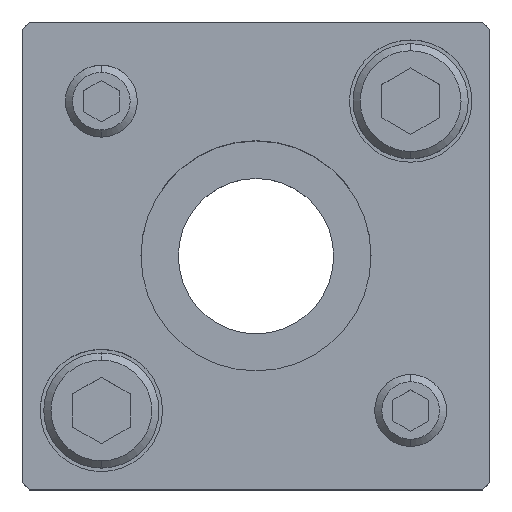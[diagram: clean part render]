
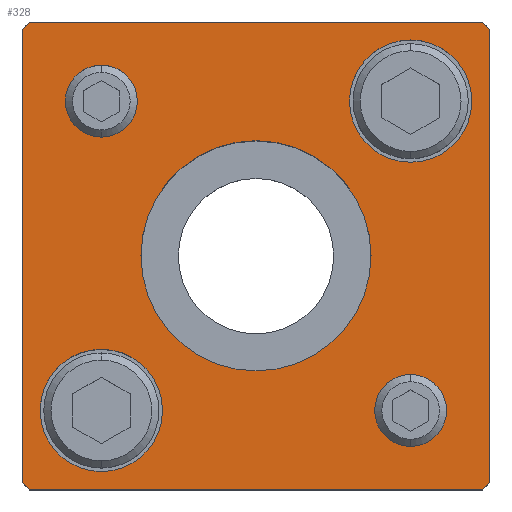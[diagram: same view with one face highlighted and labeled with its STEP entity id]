
A CAD part, top view. The second image highlights one B-rep face of the part: STEP entity #328.
In plain terms, the highlighted planar face has unit normal (0, 0, 1).
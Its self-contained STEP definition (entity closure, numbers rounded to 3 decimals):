
#119=PLANE('',#2702);
#192=FACE_BOUND('',#649,.T.);
#193=FACE_BOUND('',#650,.T.);
#194=FACE_BOUND('',#651,.T.);
#195=FACE_BOUND('',#652,.T.);
#196=FACE_BOUND('',#653,.T.);
#197=FACE_BOUND('',#654,.T.);
#328=ADVANCED_FACE('',(#192,#193,#194,#195,#196,#197),#119,.T.);
#649=EDGE_LOOP('',(#1071,#1072,#1073,#1074,#1075,#1076,#1077,#1078));
#650=EDGE_LOOP('',(#1079,#1080));
#651=EDGE_LOOP('',(#1081,#1082));
#652=EDGE_LOOP('',(#1083,#1084));
#653=EDGE_LOOP('',(#1085,#1086));
#654=EDGE_LOOP('',(#1087,#1088));
#833=CIRCLE('',#2678,5.);
#835=CIRCLE('',#2681,5.);
#837=CIRCLE('',#2684,5.);
#839=CIRCLE('',#2687,5.);
#845=CIRCLE('',#2696,8.5);
#846=CIRCLE('',#2697,8.5);
#847=CIRCLE('',#2698,8.5);
#848=CIRCLE('',#2699,8.5);
#849=CIRCLE('',#2700,16.);
#850=CIRCLE('',#2701,16.);
#1071=ORIENTED_EDGE('',*,*,#1923,.T.);
#1072=ORIENTED_EDGE('',*,*,#1924,.T.);
#1073=ORIENTED_EDGE('',*,*,#1925,.T.);
#1074=ORIENTED_EDGE('',*,*,#1926,.T.);
#1075=ORIENTED_EDGE('',*,*,#1927,.T.);
#1076=ORIENTED_EDGE('',*,*,#1928,.T.);
#1077=ORIENTED_EDGE('',*,*,#1929,.T.);
#1078=ORIENTED_EDGE('',*,*,#1930,.T.);
#1079=ORIENTED_EDGE('',*,*,#1931,.F.);
#1080=ORIENTED_EDGE('',*,*,#1932,.F.);
#1081=ORIENTED_EDGE('',*,*,#1933,.F.);
#1082=ORIENTED_EDGE('',*,*,#1934,.F.);
#1083=ORIENTED_EDGE('',*,*,#1915,.F.);
#1084=ORIENTED_EDGE('',*,*,#1911,.F.);
#1085=ORIENTED_EDGE('',*,*,#1909,.F.);
#1086=ORIENTED_EDGE('',*,*,#1905,.F.);
#1087=ORIENTED_EDGE('',*,*,#1935,.T.);
#1088=ORIENTED_EDGE('',*,*,#1936,.T.);
#1659=VERTEX_POINT('',#3859);
#1660=VERTEX_POINT('',#3860);
#1663=VERTEX_POINT('',#3871);
#1664=VERTEX_POINT('',#3872);
#1671=VERTEX_POINT('',#3895);
#1672=VERTEX_POINT('',#3896);
#1673=VERTEX_POINT('',#3898);
#1674=VERTEX_POINT('',#3900);
#1675=VERTEX_POINT('',#3902);
#1676=VERTEX_POINT('',#3904);
#1677=VERTEX_POINT('',#3906);
#1678=VERTEX_POINT('',#3908);
#1679=VERTEX_POINT('',#3911);
#1680=VERTEX_POINT('',#3912);
#1681=VERTEX_POINT('',#3915);
#1682=VERTEX_POINT('',#3916);
#1683=VERTEX_POINT('',#3919);
#1684=VERTEX_POINT('',#3920);
#1905=EDGE_CURVE('',#1659,#1660,#833,.T.);
#1909=EDGE_CURVE('',#1660,#1659,#835,.T.);
#1911=EDGE_CURVE('',#1663,#1664,#837,.T.);
#1915=EDGE_CURVE('',#1664,#1663,#839,.T.);
#1923=EDGE_CURVE('',#1671,#1672,#2217,.T.);
#1924=EDGE_CURVE('',#1672,#1673,#2218,.T.);
#1925=EDGE_CURVE('',#1673,#1674,#2219,.T.);
#1926=EDGE_CURVE('',#1674,#1675,#2220,.T.);
#1927=EDGE_CURVE('',#1675,#1676,#2221,.T.);
#1928=EDGE_CURVE('',#1676,#1677,#2222,.T.);
#1929=EDGE_CURVE('',#1677,#1678,#2223,.T.);
#1930=EDGE_CURVE('',#1678,#1671,#2224,.T.);
#1931=EDGE_CURVE('',#1679,#1680,#845,.T.);
#1932=EDGE_CURVE('',#1680,#1679,#846,.T.);
#1933=EDGE_CURVE('',#1681,#1682,#847,.T.);
#1934=EDGE_CURVE('',#1682,#1681,#848,.T.);
#1935=EDGE_CURVE('',#1683,#1684,#849,.T.);
#1936=EDGE_CURVE('',#1684,#1683,#850,.T.);
#2217=LINE('',#3894,#2429);
#2218=LINE('',#3897,#2430);
#2219=LINE('',#3899,#2431);
#2220=LINE('',#3901,#2432);
#2221=LINE('',#3903,#2433);
#2222=LINE('',#3905,#2434);
#2223=LINE('',#3907,#2435);
#2224=LINE('',#3909,#2436);
#2429=VECTOR('',#3097,1.);
#2430=VECTOR('',#3098,1.);
#2431=VECTOR('',#3099,1.);
#2432=VECTOR('',#3100,1.);
#2433=VECTOR('',#3101,1.);
#2434=VECTOR('',#3102,1.);
#2435=VECTOR('',#3103,1.);
#2436=VECTOR('',#3104,1.);
#2678=AXIS2_PLACEMENT_3D('',#3858,#3055,#3056);
#2681=AXIS2_PLACEMENT_3D('',#3867,#3063,#3064);
#2684=AXIS2_PLACEMENT_3D('',#3870,#3069,#3070);
#2687=AXIS2_PLACEMENT_3D('',#3879,#3077,#3078);
#2696=AXIS2_PLACEMENT_3D('',#3910,#3105,#3106);
#2697=AXIS2_PLACEMENT_3D('',#3913,#3107,#3108);
#2698=AXIS2_PLACEMENT_3D('',#3914,#3109,#3110);
#2699=AXIS2_PLACEMENT_3D('',#3917,#3111,#3112);
#2700=AXIS2_PLACEMENT_3D('',#3918,#3113,#3114);
#2701=AXIS2_PLACEMENT_3D('',#3921,#3115,#3116);
#2702=AXIS2_PLACEMENT_3D('',#3922,#3117,#3118);
#3055=DIRECTION('',(0.,0.,1.));
#3056=DIRECTION('',(1.,0.,0.));
#3063=DIRECTION('',(0.,0.,1.));
#3064=DIRECTION('',(-1.,0.,0.));
#3069=DIRECTION('',(0.,0.,1.));
#3070=DIRECTION('',(1.,0.,0.));
#3077=DIRECTION('',(0.,0.,1.));
#3078=DIRECTION('',(-1.,0.,0.));
#3097=DIRECTION('',(1.,0.,0.));
#3098=DIRECTION('',(0.707,0.707,0.));
#3099=DIRECTION('',(0.,1.,0.));
#3100=DIRECTION('',(-0.707,0.707,0.));
#3101=DIRECTION('',(-1.,0.,0.));
#3102=DIRECTION('',(-0.707,-0.707,0.));
#3103=DIRECTION('',(0.,-1.,0.));
#3104=DIRECTION('',(0.707,-0.707,0.));
#3105=DIRECTION('',(0.,0.,1.));
#3106=DIRECTION('',(1.,0.,0.));
#3107=DIRECTION('',(0.,0.,1.));
#3108=DIRECTION('',(-1.,0.,0.));
#3109=DIRECTION('',(0.,0.,1.));
#3110=DIRECTION('',(1.,0.,0.));
#3111=DIRECTION('',(0.,0.,1.));
#3112=DIRECTION('',(-1.,0.,0.));
#3113=DIRECTION('',(0.,0.,-1.));
#3114=DIRECTION('',(-1.,0.,0.));
#3115=DIRECTION('',(0.,0.,-1.));
#3116=DIRECTION('',(1.,0.,0.));
#3117=DIRECTION('',(0.,0.,1.));
#3118=DIRECTION('',(-1.,0.,0.));
#3858=CARTESIAN_POINT('',(21.5,-21.5,35.));
#3859=CARTESIAN_POINT('',(21.5,-16.5,35.));
#3860=CARTESIAN_POINT('',(21.5,-26.5,35.));
#3867=CARTESIAN_POINT('',(21.5,-21.5,35.));
#3870=CARTESIAN_POINT('',(-21.5,21.5,35.));
#3871=CARTESIAN_POINT('',(-21.5,26.5,35.));
#3872=CARTESIAN_POINT('',(-21.5,16.5,35.));
#3879=CARTESIAN_POINT('',(-21.5,21.5,35.));
#3894=CARTESIAN_POINT('',(31.5,-32.5,35.));
#3895=CARTESIAN_POINT('',(-31.5,-32.5,35.));
#3896=CARTESIAN_POINT('',(31.5,-32.5,35.));
#3897=CARTESIAN_POINT('',(32.5,-31.5,35.));
#3898=CARTESIAN_POINT('',(32.5,-31.5,35.));
#3899=CARTESIAN_POINT('',(32.5,31.5,35.));
#3900=CARTESIAN_POINT('',(32.5,31.5,35.));
#3901=CARTESIAN_POINT('',(31.5,32.5,35.));
#3902=CARTESIAN_POINT('',(31.5,32.5,35.));
#3903=CARTESIAN_POINT('',(-31.5,32.5,35.));
#3904=CARTESIAN_POINT('',(-31.5,32.5,35.));
#3905=CARTESIAN_POINT('',(-32.5,31.5,35.));
#3906=CARTESIAN_POINT('',(-32.5,31.5,35.));
#3907=CARTESIAN_POINT('',(-32.5,-31.5,35.));
#3908=CARTESIAN_POINT('',(-32.5,-31.5,35.));
#3909=CARTESIAN_POINT('',(-31.5,-32.5,35.));
#3910=CARTESIAN_POINT('',(-21.5,-21.5,35.));
#3911=CARTESIAN_POINT('',(-21.5,-13.,35.));
#3912=CARTESIAN_POINT('',(-21.5,-30.,35.));
#3913=CARTESIAN_POINT('',(-21.5,-21.5,35.));
#3914=CARTESIAN_POINT('',(21.5,21.5,35.));
#3915=CARTESIAN_POINT('',(21.5,30.,35.));
#3916=CARTESIAN_POINT('',(21.5,13.,35.));
#3917=CARTESIAN_POINT('',(21.5,21.5,35.));
#3918=CARTESIAN_POINT('',(0.,0.,35.));
#3919=CARTESIAN_POINT('',(0.,16.,35.));
#3920=CARTESIAN_POINT('',(0.,-16.,35.));
#3921=CARTESIAN_POINT('',(0.,0.,35.));
#3922=CARTESIAN_POINT('',(-31.5,-32.5,35.));
